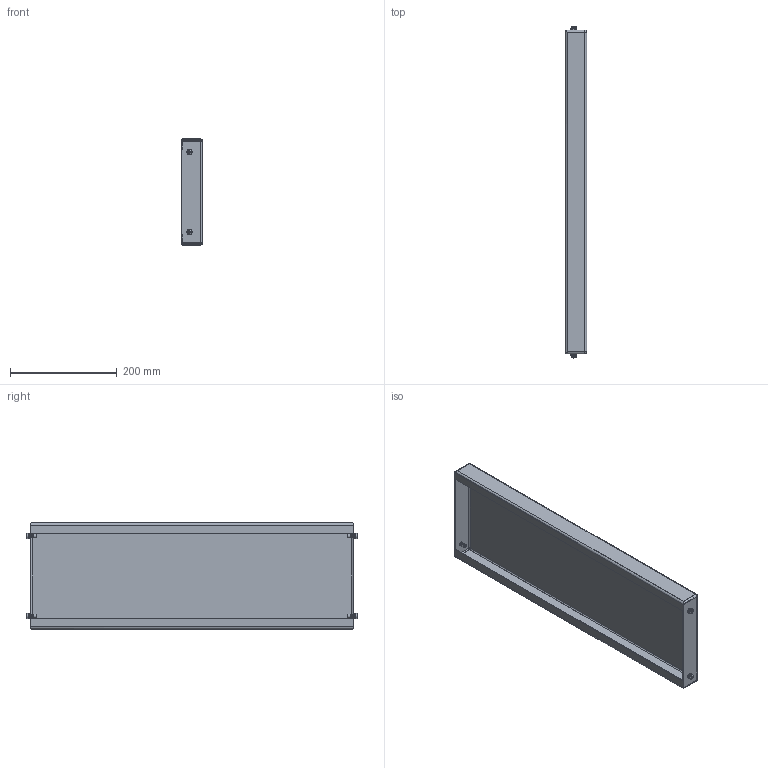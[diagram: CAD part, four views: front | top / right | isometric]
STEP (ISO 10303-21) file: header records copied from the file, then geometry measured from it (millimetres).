
FILE_DESCRIPTION(('STEP AP203'), '1');
FILE_NAME('3998 ÑÁ Áîêîâàÿ ïàíåëü öîêîëÿ', '', ('UNSPECIFIED'), ('UNSPECIFIED'), 'C3D Converter', 'C3D Toolkit', '');
FILE_SCHEMA(('CONFIG_CONTROL_DESIGN'));
Length unit declared in the file: millimetre
Products named in the file (6): 3998.20.80 СБ; 3999
Assembly tree (17 placements, depth 2):
  3998.20.80 СБ
    3999
    (unnamed)  x4
    (unnamed)  x4
    (unnamed)  x4
    (unnamed)  x4
Bounding box: 40 x 622.25 x 199 mm (x, y, z)
Volume: 300871 mm3; surface area: 407167.4 mm2
Topology: 17 solids, 17 shells, 519 faces, 1404 edges, 932 vertices
Faces by surface type: cylinder 352, plane 115, bspline 16, sphere 12, torus 12, cone 12
Full cylindrical faces by diameter (mm): 4.134 x4, 5 x4, 5.5 x4, 5.8 x4, 6.9 x4, 7.2 x4, 9.5 x4, 10 x4
Entity records: 6709 total; most frequent: CARTESIAN_POINT 1941, DIRECTION 973, ORIENTED_EDGE 792, AXIS2_PLACEMENT_3D 406, EDGE_CURVE 396, VERTEX_POINT 263, CIRCLE 227, EDGE_LOOP 199
